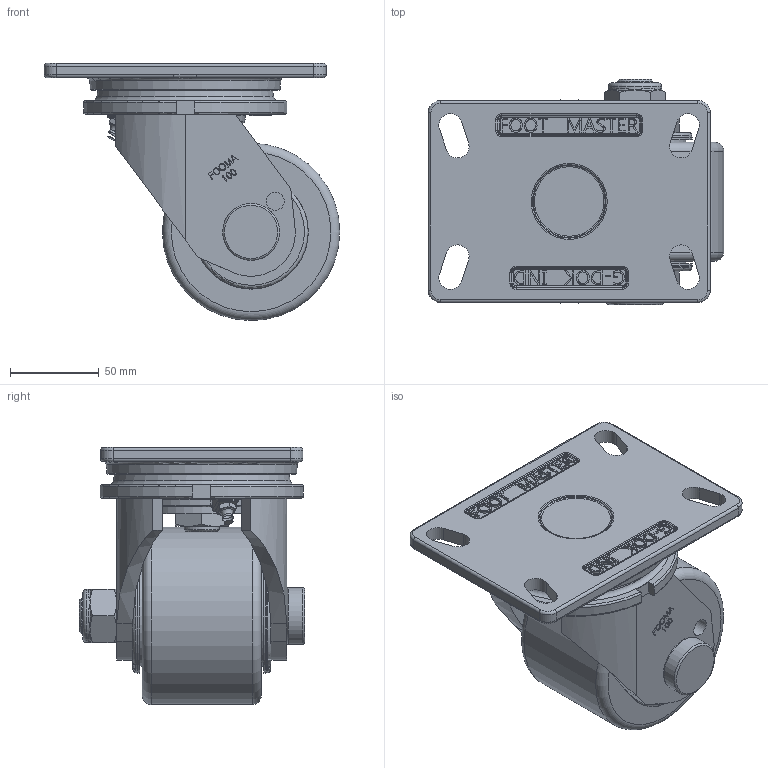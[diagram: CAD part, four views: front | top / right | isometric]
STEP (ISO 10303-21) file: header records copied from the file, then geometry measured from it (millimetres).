
FILE_DESCRIPTION(/* description */ (''),/* implementation_level */ '2;1');
FILE_NAME(/* name */ '\\192.168.10.38\지덕공유\1.기술연구소\손동원\GF-SERIES\3D\GF-100-ASF-MCD.stp',/* time_stamp */ '2023-07-25T13:59:16+09:00',/* author */ ('admin'),/* organization */ (''),/* preprocessor_version */ 'ST-DEVELOPER v18.1',/* originating_system */ 'Autodesk Inventor 2021',/* authorisation */ '');
FILE_SCHEMA (('AUTOMOTIVE_DESIGN { 1 0 10303 214 3 1 1 }'));
Length unit declared in the file: millimetre
Products named in the file (1): GF-100-ASF-MCD
Bounding box: 166.63 x 127 x 145 mm (x, y, z)
Volume: 1044437.4 mm3; surface area: 120292.7 mm2
Topology: 1 solids, 1 shells, 1013 faces, 2663 edges, 1704 vertices
Faces by surface type: bspline 401, plane 371, cylinder 108, torus 76, cone 49, sphere 8
Full cylindrical faces by diameter (mm): 6 x1, 10 x2, 20 x4, 30 x1, 32 x1, 57 x2, 59 x1, 64.519 x2, 100 x1
Entity records: 35053 total; most frequent: CARTESIAN_POINT 12688, ORIENTED_EDGE 5290, DIRECTION 3480, EDGE_CURVE 2645, VERTEX_POINT 1704, LINE 1320, VECTOR 1320, EDGE_LOOP 1101
